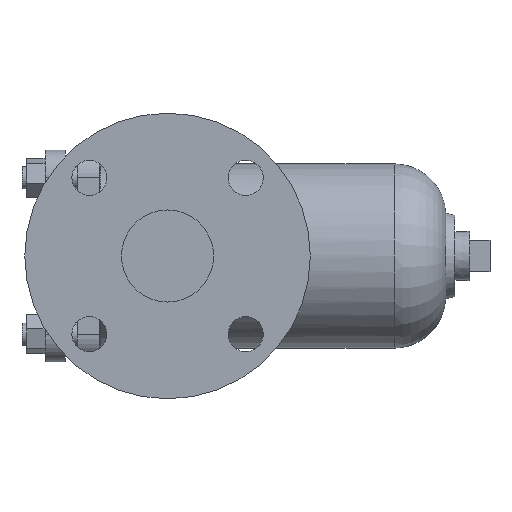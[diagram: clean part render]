
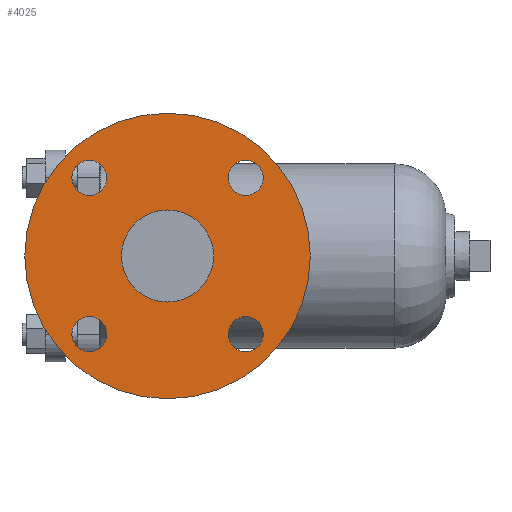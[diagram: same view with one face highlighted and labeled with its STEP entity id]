
A CAD part, left-side view. The second image highlights one B-rep face of the part: STEP entity #4025.
In plain terms, the highlighted planar face has unit normal (-1, 0, 0).
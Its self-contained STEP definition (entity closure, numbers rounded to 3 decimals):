
#192 = EDGE_LOOP ( 'NONE', ( #5718, #2596 ) ) ;
#195 = FACE_BOUND ( 'NONE', #2222, .T. ) ;
#360 = VERTEX_POINT ( 'NONE', #6129 ) ;
#430 = EDGE_CURVE ( 'NONE', #664, #2798, #4370, .T. ) ;
#511 = VERTEX_POINT ( 'NONE', #3470 ) ;
#514 = CARTESIAN_POINT ( 'NONE',  ( -100., 42.426, 32.926 ) ) ;
#542 = AXIS2_PLACEMENT_3D ( 'NONE', #2919, #1722, #4088 ) ;
#664 = VERTEX_POINT ( 'NONE', #4738 ) ;
#670 = AXIS2_PLACEMENT_3D ( 'NONE', #6910, #4210, #4718 ) ;
#734 = AXIS2_PLACEMENT_3D ( 'NONE', #6644, #972, #4385 ) ;
#770 = CIRCLE ( 'NONE', #5886, 77.5 ) ;
#776 = PLANE ( 'NONE',  #1139 ) ;
#818 = DIRECTION ( 'NONE',  ( 0., 0., -1. ) ) ;
#822 = ORIENTED_EDGE ( 'NONE', *, *, #3899, .F. ) ;
#936 = EDGE_CURVE ( 'NONE', #1121, #5007, #770, .T. ) ;
#957 = CIRCLE ( 'NONE', #6301, 25. ) ;
#972 = DIRECTION ( 'NONE',  ( -1., 0., 0. ) ) ;
#1039 = EDGE_CURVE ( 'NONE', #4500, #1337, #4629, .T. ) ;
#1121 = VERTEX_POINT ( 'NONE', #6991 ) ;
#1139 = AXIS2_PLACEMENT_3D ( 'NONE', #4769, #2655, #7135 ) ;
#1205 = EDGE_CURVE ( 'NONE', #2955, #2394, #1509, .T. ) ;
#1218 = CARTESIAN_POINT ( 'NONE',  ( -100., -42.426, 51.926 ) ) ;
#1224 = CARTESIAN_POINT ( 'NONE',  ( -100., 42.426, 42.426 ) ) ;
#1337 = VERTEX_POINT ( 'NONE', #3312 ) ;
#1346 = DIRECTION ( 'NONE',  ( -1., 0., 0. ) ) ;
#1509 = CIRCLE ( 'NONE', #4227, 9.5 ) ;
#1580 = CARTESIAN_POINT ( 'NONE',  ( -100., 42.426, -51.926 ) ) ;
#1683 = EDGE_CURVE ( 'NONE', #2160, #360, #5909, .T. ) ;
#1720 = EDGE_CURVE ( 'NONE', #5007, #1121, #3793, .T. ) ;
#1722 = DIRECTION ( 'NONE',  ( -1., 0., 0. ) ) ;
#1732 = EDGE_CURVE ( 'NONE', #1337, #4500, #6828, .T. ) ;
#2011 = CIRCLE ( 'NONE', #4792, 9.5 ) ;
#2034 = ORIENTED_EDGE ( 'NONE', *, *, #2218, .F. ) ;
#2160 = VERTEX_POINT ( 'NONE', #5478 ) ;
#2214 = EDGE_CURVE ( 'NONE', #2394, #2955, #3288, .T. ) ;
#2218 = EDGE_CURVE ( 'NONE', #360, #2160, #2011, .T. ) ;
#2222 = EDGE_LOOP ( 'NONE', ( #4184, #6338 ) ) ;
#2249 = ORIENTED_EDGE ( 'NONE', *, *, #1205, .F. ) ;
#2394 = VERTEX_POINT ( 'NONE', #1218 ) ;
#2399 = CARTESIAN_POINT ( 'NONE',  ( -100., -42.426, 32.926 ) ) ;
#2400 = EDGE_LOOP ( 'NONE', ( #3846, #2249 ) ) ;
#2444 = CARTESIAN_POINT ( 'NONE',  ( -100., 0., 0. ) ) ;
#2483 = DIRECTION ( 'NONE',  ( -1., 0., 0. ) ) ;
#2501 = EDGE_LOOP ( 'NONE', ( #822, #2508 ) ) ;
#2508 = ORIENTED_EDGE ( 'NONE', *, *, #3201, .F. ) ;
#2596 = ORIENTED_EDGE ( 'NONE', *, *, #936, .T. ) ;
#2606 = CARTESIAN_POINT ( 'NONE',  ( -100., -42.426, -42.426 ) ) ;
#2655 = DIRECTION ( 'NONE',  ( 1., 0., 0. ) ) ;
#2798 = VERTEX_POINT ( 'NONE', #514 ) ;
#2919 = CARTESIAN_POINT ( 'NONE',  ( -100., 42.426, 42.426 ) ) ;
#2952 = DIRECTION ( 'NONE',  ( -1., 0., 0. ) ) ;
#2955 = VERTEX_POINT ( 'NONE', #2399 ) ;
#3014 = DIRECTION ( 'NONE',  ( 0., -1., 0. ) ) ;
#3063 = DIRECTION ( 'NONE',  ( -1., 0., 0. ) ) ;
#3201 = EDGE_CURVE ( 'NONE', #4850, #511, #957, .T. ) ;
#3228 = CIRCLE ( 'NONE', #3926, 25. ) ;
#3288 = CIRCLE ( 'NONE', #734, 9.5 ) ;
#3312 = CARTESIAN_POINT ( 'NONE',  ( -100., 42.426, -32.926 ) ) ;
#3374 = EDGE_CURVE ( 'NONE', #2798, #664, #6764, .T. ) ;
#3406 = ORIENTED_EDGE ( 'NONE', *, *, #1732, .F. ) ;
#3470 = CARTESIAN_POINT ( 'NONE',  ( -100., 0., 25. ) ) ;
#3525 = EDGE_LOOP ( 'NONE', ( #2034, #4137 ) ) ;
#3626 = AXIS2_PLACEMENT_3D ( 'NONE', #1224, #4204, #3014 ) ;
#3665 = DIRECTION ( 'NONE',  ( -1., 0., 0. ) ) ;
#3730 = DIRECTION ( 'NONE',  ( 0., 1., 0. ) ) ;
#3793 = CIRCLE ( 'NONE', #670, 77.5 ) ;
#3846 = ORIENTED_EDGE ( 'NONE', *, *, #2214, .F. ) ;
#3899 = EDGE_CURVE ( 'NONE', #511, #4850, #3228, .T. ) ;
#3926 = AXIS2_PLACEMENT_3D ( 'NONE', #2444, #2483, #4700 ) ;
#4025 = ADVANCED_FACE ( 'NONE', ( #4628, #5177, #195, #6855, #6299, #5758 ), #776, .F. ) ;
#4088 = DIRECTION ( 'NONE',  ( 0., -1., 0. ) ) ;
#4137 = ORIENTED_EDGE ( 'NONE', *, *, #1683, .F. ) ;
#4184 = ORIENTED_EDGE ( 'NONE', *, *, #430, .F. ) ;
#4204 = DIRECTION ( 'NONE',  ( -1., 0., 0. ) ) ;
#4210 = DIRECTION ( 'NONE',  ( -1., 0., 0. ) ) ;
#4227 = AXIS2_PLACEMENT_3D ( 'NONE', #4319, #4772, #818 ) ;
#4235 = CARTESIAN_POINT ( 'NONE',  ( -100., 0., -25. ) ) ;
#4319 = CARTESIAN_POINT ( 'NONE',  ( -100., -42.426, 42.426 ) ) ;
#4370 = CIRCLE ( 'NONE', #542, 9.5 ) ;
#4385 = DIRECTION ( 'NONE',  ( 0., 0., -1. ) ) ;
#4500 = VERTEX_POINT ( 'NONE', #1580 ) ;
#4550 = CARTESIAN_POINT ( 'NONE',  ( -100., 0., 0. ) ) ;
#4587 = CARTESIAN_POINT ( 'NONE',  ( -100., 0., 77.5 ) ) ;
#4628 = FACE_BOUND ( 'NONE', #3525, .T. ) ;
#4629 = CIRCLE ( 'NONE', #6840, 9.5 ) ;
#4683 = DIRECTION ( 'NONE',  ( 0., 0., 1. ) ) ;
#4700 = DIRECTION ( 'NONE',  ( 0., 0., 1. ) ) ;
#4718 = DIRECTION ( 'NONE',  ( 0., 0., 1. ) ) ;
#4733 = AXIS2_PLACEMENT_3D ( 'NONE', #5955, #3665, #4683 ) ;
#4738 = CARTESIAN_POINT ( 'NONE',  ( -100., 42.426, 51.926 ) ) ;
#4756 = DIRECTION ( 'NONE',  ( -1., 0., 0. ) ) ;
#4769 = CARTESIAN_POINT ( 'NONE',  ( -100., 0., 0. ) ) ;
#4772 = DIRECTION ( 'NONE',  ( -1., 0., 0. ) ) ;
#4792 = AXIS2_PLACEMENT_3D ( 'NONE', #5557, #7191, #7158 ) ;
#4850 = VERTEX_POINT ( 'NONE', #4235 ) ;
#4975 = ORIENTED_EDGE ( 'NONE', *, *, #1039, .F. ) ;
#5007 = VERTEX_POINT ( 'NONE', #4587 ) ;
#5177 = FACE_BOUND ( 'NONE', #2400, .T. ) ;
#5279 = DIRECTION ( 'NONE',  ( 0., 0., 1. ) ) ;
#5284 = CARTESIAN_POINT ( 'NONE',  ( -100., 42.426, -42.426 ) ) ;
#5478 = CARTESIAN_POINT ( 'NONE',  ( -100., -42.426, -51.926 ) ) ;
#5557 = CARTESIAN_POINT ( 'NONE',  ( -100., -42.426, -42.426 ) ) ;
#5718 = ORIENTED_EDGE ( 'NONE', *, *, #1720, .T. ) ;
#5758 = FACE_OUTER_BOUND ( 'NONE', #192, .T. ) ;
#5825 = CARTESIAN_POINT ( 'NONE',  ( -100., 0., 0. ) ) ;
#5886 = AXIS2_PLACEMENT_3D ( 'NONE', #4550, #2952, #6773 ) ;
#5909 = CIRCLE ( 'NONE', #6949, 9.5 ) ;
#5955 = CARTESIAN_POINT ( 'NONE',  ( -100., 42.426, -42.426 ) ) ;
#6129 = CARTESIAN_POINT ( 'NONE',  ( -100., -42.426, -32.926 ) ) ;
#6299 = FACE_BOUND ( 'NONE', #2501, .T. ) ;
#6301 = AXIS2_PLACEMENT_3D ( 'NONE', #5825, #3063, #5279 ) ;
#6338 = ORIENTED_EDGE ( 'NONE', *, *, #3374, .F. ) ;
#6447 = DIRECTION ( 'NONE',  ( 0., 0., 1. ) ) ;
#6644 = CARTESIAN_POINT ( 'NONE',  ( -100., -42.426, 42.426 ) ) ;
#6764 = CIRCLE ( 'NONE', #3626, 9.5 ) ;
#6770 = EDGE_LOOP ( 'NONE', ( #3406, #4975 ) ) ;
#6773 = DIRECTION ( 'NONE',  ( 0., 0., 1. ) ) ;
#6828 = CIRCLE ( 'NONE', #4733, 9.5 ) ;
#6840 = AXIS2_PLACEMENT_3D ( 'NONE', #5284, #1346, #6447 ) ;
#6855 = FACE_BOUND ( 'NONE', #6770, .T. ) ;
#6910 = CARTESIAN_POINT ( 'NONE',  ( -100., 0., 0. ) ) ;
#6949 = AXIS2_PLACEMENT_3D ( 'NONE', #2606, #4756, #3730 ) ;
#6991 = CARTESIAN_POINT ( 'NONE',  ( -100., 0., -77.5 ) ) ;
#7135 = DIRECTION ( 'NONE',  ( 0., 0., -1. ) ) ;
#7158 = DIRECTION ( 'NONE',  ( 0., 1., 0. ) ) ;
#7191 = DIRECTION ( 'NONE',  ( -1., 0., 0. ) ) ;
